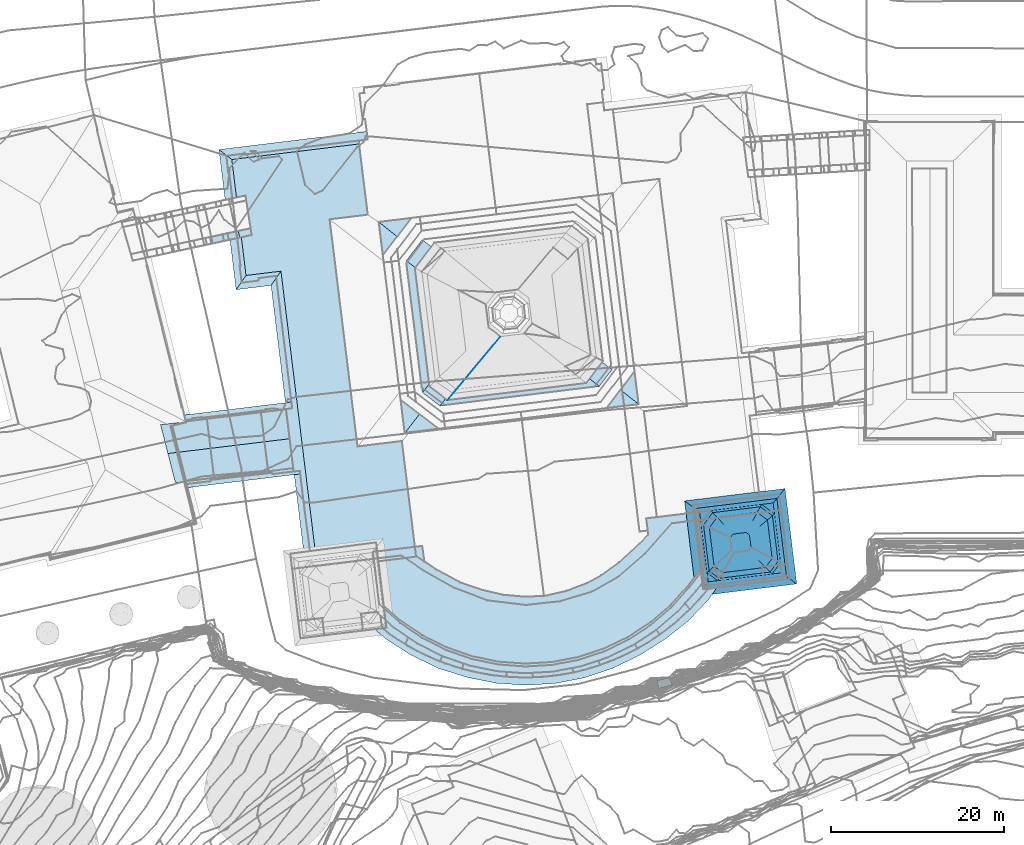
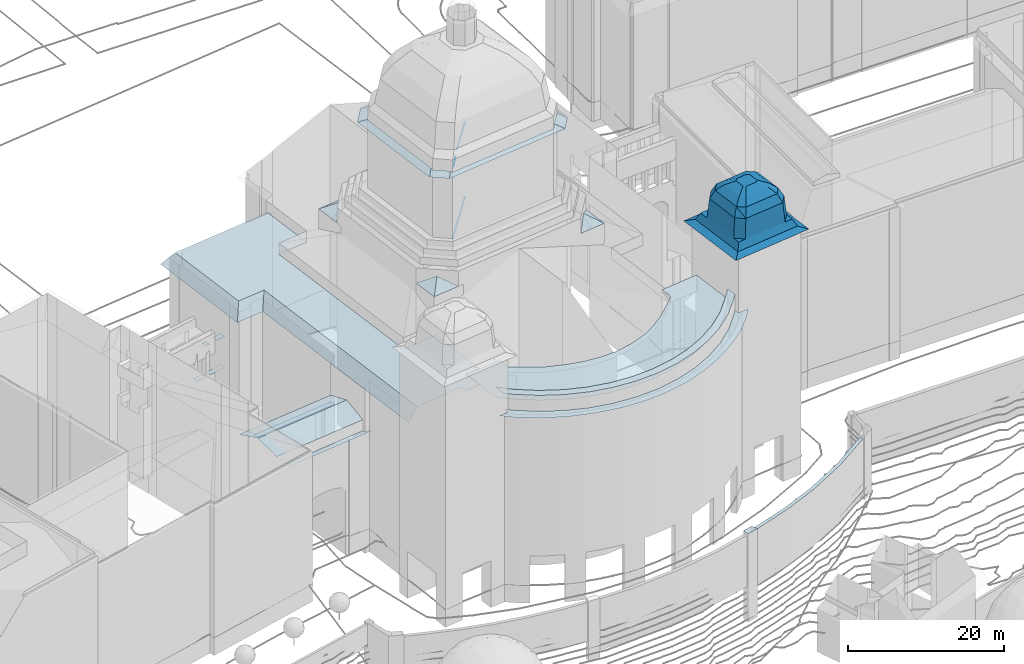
# Not in any storey, part 84 of 477: 26 roofs.
"""IFC4 building model written with IfcOpenShell, lengths in metres."""

from ifc_helpers import new_model, si_unit, frame, origin_with_axes, place, context, subcontext, project, spatial, polygons, element, save


model = new_model("IFC4")

# Units and contexts
model_context = context("Model", 3, precision=1e-05, world=origin_with_axes())
body_context = subcontext(model_context, "Body", "Model", "MODEL_VIEW")
ifc_project = project(units=[si_unit("AREAUNIT", "SQUARE_METRE"), si_unit("LENGTHUNIT", "METRE")], contexts=[model_context])

# Sites, building
site_1_placement = place(None, origin_with_axes())
site_1 = spatial("IfcSite", under=ifc_project, at=site_1_placement, Name="Topoexport Site")
site_2_placement = place(site_1_placement, origin_with_axes())
site_2 = spatial("IfcSite", under=site_1, at=site_2_placement, Name="TPX_BUILDINGS")
building_1_placement = place(site_2_placement, frame((211.8297320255, 101.9383160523, 526.7541), z_axis=(0.0, 0.0, 1.0), x_axis=(1.0, 0.0, 0.0)))
building_1 = spatial("IfcBuilding", under=site_2, at=building_1_placement, Name="Building 18", CompositionType="ELEMENT")

# Roofs
roof_1_placement = place(None, frame((211.8297320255, 101.9383160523, 526.7541), z_axis=(0.0, 0.0, 1.0), x_axis=(1.0, 0.0, 0.0)))
element("IfcRoof", 1, at=roof_1_placement, inside=building_1, Name="Roof 0", context=body_context, shape_type="Tessellation", body=[
    polygons([(355.9690000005, 249.8583999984, 13.1967), (355.7120000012, 250.2899999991, 13.1967), (361.4830000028, 253.5117000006, 13.1967), (361.2360000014, 253.9481999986, 13.1967), (350.2200000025, 246.7958999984, 13.1967), (350.0040000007, 247.2490000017, 13.1967), (345.0600000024, 245.1601000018, 13.1967), (339.2430000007, 242.6669999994, 13.1968), (339.068, 243.1387000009, 13.1968), (345.2380000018, 244.6904000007, 13.1967)], [[[3, 2, 1]], [[2, 3, 4]], [[5, 1, 2]], [[2, 6, 5]], [[9, 8, 7]], [[6, 10, 5]], [[10, 6, 7]], [[10, 7, 8]]]),
])
roof_2_placement = place(None, frame((211.8297320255, 101.9383160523, 526.7541), z_axis=(0.0, 0.0, 1.0), x_axis=(1.0, 0.0, 0.0)))
element("IfcRoof", 2, at=roof_2_placement, inside=building_1, Name="Roof 4", context=body_context, shape_type="Tessellation", body=[
    polygons([(287.8580000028, 294.6854999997, 24.302), (290.5280000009, 295.2606999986, 24.302), (290.6510000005, 294.4814000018, 24.302), (288.0230000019, 293.9149999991, 24.302)], [[[3, 2, 1]], [[1, 4, 3]]]),
])
roof_3_placement = place(None, frame((211.8297320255, 101.9383160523, 526.7541), z_axis=(0.0, 0.0, 1.0), x_axis=(1.0, 0.0, 0.0)))
element("IfcRoof", 3, at=roof_3_placement, inside=building_1, Name="Roof 8", context=body_context, shape_type="Tessellation", body=[
    polygons([(285.8230000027, 294.246100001, 24.302), (287.2910000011, 294.5634999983, 24.302), (287.4560000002, 293.7930000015, 24.302), (285.9890000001, 293.4765000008, 24.302)], [[[3, 2, 1]], [[1, 4, 3]]]),
])
roof_4_placement = place(None, frame((211.8297320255, 101.9383160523, 526.7541), z_axis=(0.0, 0.0, 1.0), x_axis=(1.0, 0.0, 0.0)))
element("IfcRoof", 4, at=roof_4_placement, inside=building_1, Name="Roof 21", context=body_context, shape_type="Tessellation", body=[
    polygons([(287.2910000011, 294.5625, 29.1525), (288.0230000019, 293.9149999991, 29.1525), (287.4560000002, 293.7930000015, 29.1525), (287.8580000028, 294.6845999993, 29.1525)], [[[3, 2, 1]], [[2, 4, 1]]]),
])
roof_5_placement = place(None, frame((211.8297320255, 101.9383160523, 526.7541), z_axis=(0.0, 0.0, 1.0), x_axis=(1.0, 0.0, 0.0)))
element("IfcRoof", 5, at=roof_5_placement, inside=building_1, Name="Roof 48", context=body_context, shape_type="Tessellation", body=[
    polygons([(339.0240000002, 243.2588, 13.5627), (337.745000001, 241.9609000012, 13.5627), (337.569000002, 242.8828000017, 13.5627), (339.3520000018, 242.3768999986, 13.5627)], [[[3, 2, 1]], [[4, 1, 2]]]),
])

# Building
building_2_placement = place(site_2_placement, frame((516.5377320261, 359.7107160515, 536.6602), z_axis=(0.0, 0.0, 1.0), x_axis=(1.0, 0.0, 0.0)))
building_2 = spatial("IfcBuilding", under=site_2, at=building_2_placement, Name="Building 193", CompositionType="ELEMENT")

# Roofs
roof_6_placement = place(None, frame((516.5377320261, 359.7107160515, 536.6602), z_axis=(0.0, 0.0, 1.0), x_axis=(1.0, 0.0, 0.0)))
element("IfcRoof", 6, at=roof_6_placement, inside=building_2, Name="Roof 0", context=body_context, shape_type="Tessellation", body=[
    polygons([(30.2879999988, 20.9327000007, 33.0869), (30.7569999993, 17.1143000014, 33.0868), (28.6510000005, 18.7881000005, 34.3877), (27.0240000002, 16.6563000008, 33.0868)], [[[3, 2, 1]], [[2, 3, 4]]]),
])
roof_7_placement = place(None, frame((516.5377320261, 359.7107160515, 536.6602), z_axis=(0.0, 0.0, 1.0), x_axis=(1.0, 0.0, 0.0)))
element("IfcRoof", 7, at=roof_7_placement, inside=building_2, Name="Roof 1", context=body_context, shape_type="Tessellation", body=[
    polygons([(3.1920000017, 17.6044999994, 33.0869), (5.3359999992, 15.9688000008, 34.4167), (3.6610000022, 13.7872000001, 33.0869), (7.5659999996, 14.2657000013, 33.0869)], [[[3, 2, 1]], [[2, 3, 4]]]),
])
roof_8_placement = place(None, frame((516.5377320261, 359.7107160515, 536.6602), z_axis=(0.0, 0.0, 1.0), x_axis=(1.0, 0.0, 0.0)))
element("IfcRoof", 8, at=roof_8_placement, inside=building_2, Name="Roof 2", context=body_context, shape_type="Tessellation", body=[
    polygons([(5.6970000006, 18.4893000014, 48.2674), (6.4930000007, 19.496100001, 48.8224), (6.5350000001, 19.1534000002, 48.7154), (7.7219999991, 16.9444000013, 48.2674), (8.3650000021, 17.7569000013, 48.7154)], [[[3, 2, 1]], [[5, 3, 4]], [[4, 3, 1]]]),
])
roof_9_placement = place(None, frame((516.5377320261, 359.7107160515, 536.6602), z_axis=(0.0, 0.0, 1.0), x_axis=(1.0, 0.0, 0.0)))
element("IfcRoof", 9, at=roof_9_placement, inside=building_2, Name="Roof 3", context=body_context, shape_type="Tessellation", body=[
    polygons([(26.5370000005, 21.9942000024, 48.8753), (26.1810000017, 19.2100000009, 48.2674), (25.068, 20.0694000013, 48.8753), (27.6500000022, 21.134800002, 48.2674)], [[[3, 2, 1]], [[1, 2, 4]]]),
])
roof_10_placement = place(None, frame((516.5377320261, 359.7107160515, 536.6602), z_axis=(0.0, 0.0, 1.0), x_axis=(1.0, 0.0, 0.0)))
element("IfcRoof", 10, at=roof_10_placement, inside=building_2, Name="Roof 5", context=body_context, shape_type="Tessellation", body=[
    polygons([(12.8370000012, 22.692400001, 38.1684), (8.5430000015, 17.5284000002, 38.1684), (10.6290000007, 20.0401000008, 38.1684), (12.9739999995, 22.8604000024, 38.1684), (14.7650000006, 25.009800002, 38.1684)], [[[3, 2, 1]], [[1, 5, 4]], [[1, 4, 3]]]),
])
roof_11_placement = place(None, frame((516.5377320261, 359.7107160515, 536.6602), z_axis=(0.0, 0.0, 1.0), x_axis=(1.0, 0.0, 0.0)))
element("IfcRoof", 11, at=roof_11_placement, inside=building_2, Name="Roof 6", context=body_context, shape_type="Tessellation", body=[
    polygons([(9.5700000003, 18.7657000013, 49.2293), (9.5710000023, 18.7646999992, 49.2283), (9.0810000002, 18.1748000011, 48.8994), (10.0610000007, 19.3564999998, 49.5583)], [[[3, 2, 1]], [[2, 4, 1]]]),
])
roof_12_placement = place(None, frame((516.5377320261, 359.7107160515, 536.6602), z_axis=(0.0, 0.0, 1.0), x_axis=(1.0, 0.0, 0.0)))
element("IfcRoof", 12, at=roof_12_placement, inside=building_2, Name="Roof 7", context=body_context, shape_type="Tessellation", body=[
    polygons([(3.824000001, 33.7540000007, 48.2376), (4.8839999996, 32.9356000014, 48.8275), (4.8489999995, 32.8896999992, 48.8025), (6.4930000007, 19.496100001, 48.8024), (5.6970000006, 18.4893000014, 48.2374)], [[[3, 2, 1]], [[1, 5, 4]], [[1, 4, 3]]]),
])
roof_13_placement = place(None, frame((516.5377320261, 359.7107160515, 536.6602), z_axis=(0.0, 0.0, 1.0), x_axis=(1.0, 0.0, 0.0)))
element("IfcRoof", 13, at=roof_13_placement, inside=building_2, Name="Roof 8", context=body_context, shape_type="Tessellation", body=[
    polygons([(14.7219999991, 24.9590000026, 49.8883), (10.5540000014, 19.9502000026, 49.8883), (12.1140000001, 21.8282000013, 49.8883), (13.6781000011, 23.7080000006, 49.8883)], [[[3, 2, 1]], [[1, 4, 3]]]),
])
roof_14_placement = place(None, frame((516.5377320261, 359.7107160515, 536.6602), z_axis=(0.0, 0.0, 1.0), x_axis=(1.0, 0.0, 0.0)))
element("IfcRoof", 14, at=roof_14_placement, inside=building_2, Name="Roof 9", context=body_context, shape_type="Tessellation", body=[
    polygons([(3.824000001, 33.7539000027, 48.2676), (6.7360000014, 35.3632999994, 48.8465), (4.8839999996, 32.9356000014, 48.8465), (5.675999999, 36.1807000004, 48.2676)], [[[3, 2, 1]], [[2, 4, 1]]]),
])
roof_15_placement = place(None, frame((516.5377320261, 359.7107160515, 536.6602), z_axis=(0.0, 0.0, 1.0), x_axis=(1.0, 0.0, 0.0)))
element("IfcRoof", 15, at=roof_15_placement, inside=building_2, Name="Roof 10", context=body_context, shape_type="Tessellation", body=[
    polygons([(8.5899999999, 17.5850000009, 48.5694), (24.6799999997, 19.5595999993, 48.5694), (7.7219999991, 16.9444000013, 48.2374), (8.3650000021, 17.7569000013, 48.6944), (26.1810000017, 19.2100000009, 48.2374), (25.068, 20.0694000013, 48.8563)], [[[3, 2, 1]], [[3, 1, 4]], [[2, 3, 5]], [[6, 2, 5]]]),
])
roof_16_placement = place(None, frame((516.5377320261, 359.7107160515, 536.6602), z_axis=(0.0, 0.0, 1.0), x_axis=(1.0, 0.0, 0.0)))
element("IfcRoof", 16, at=roof_16_placement, inside=building_2, Name="Roof 12", context=body_context, shape_type="Tessellation", body=[
    polygons([(45.432, -1.7705000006, 44.0418), (40.4589999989, -2.3797999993, 44.0418), (41.0329999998, -1.4228000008, 44.8107), (44.6460000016, -0.9793999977, 44.8107), (41.8630000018, -0.0361000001, 45.3876), (43.5080000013, 0.1660999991, 45.3876), (38.7950000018, -3.4452999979, 39.8132), (38.6660000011, -2.3924999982, 39.8132), (39.9030000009, -3.3084999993, 39.8132), (46.2019999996, -0.7265000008, 44.0418), (45.2060000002, -0.2206999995, 44.8107), (43.7630000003, 0.5108000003, 45.3876), (37.800999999, 4.6436000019, 39.8132), (39.0969999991, 4.8027999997, 39.8132), (37.9690000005, 3.2793000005, 39.8132), (47.3139999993, -2.3983999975, 39.8132), (46.193, -2.5361000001, 39.8132), (47.1689999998, -1.2177000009, 39.8132), (40.3220000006, -0.8973999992, 44.8107), (38.9299999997, 2.8282000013, 44.0418), (39.9220000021, 2.3614000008, 44.8107), (39.4809999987, -1.6571999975, 44.0418), (41.5390000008, 0.2032000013, 45.3876), (41.3579999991, 1.6865999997, 45.3876), (45.9670000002, -2.307599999, 42.7929), (40.068, -3.0321999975, 42.7929), (38.9090000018, -2.1728000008, 42.7929), (46.881000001, -1.0722000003, 42.7929), (38.3650000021, -3.9668000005, 38.7563), (47.8570000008, -2.8006999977, 38.7563), (37.2580000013, 5.0469000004, 38.7563), (38.254999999, 3.1436000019, 42.7929), (46.193, -2.5361000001, 39.6132), (40.068, -3.0321999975, 42.5929), (39.9030000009, -3.3084999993, 39.6132), (45.9670000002, -2.307599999, 42.5929), (43.0170000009, -2.6699000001, 42.7889), (38.6660000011, -2.3924999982, 39.6132), (38.9090000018, -2.1728000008, 42.5929), (38.254999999, 3.1436000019, 42.5929), (37.9690000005, 3.2793000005, 39.6132), (47.1689999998, -1.2177000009, 39.6132), (46.881000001, -1.0722000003, 42.5929)], [[[3, 2, 1]], [[1, 4, 3]], [[5, 3, 4]], [[4, 6, 5]], [[9, 8, 7]], [[1, 10, 4]], [[11, 4, 10]], [[4, 11, 6]], [[12, 6, 11]], [[15, 14, 13]], [[18, 17, 16]], [[21, 20, 19]], [[22, 19, 20]], [[24, 21, 23]], [[19, 23, 21]], [[2, 26, 25]], [[25, 1, 2]], [[26, 22, 27]], [[1, 25, 10]], [[28, 10, 25]], [[29, 9, 7]], [[9, 29, 17]], [[17, 30, 16]], [[30, 17, 29]], [[31, 15, 13]], [[15, 31, 29]], [[8, 29, 7]], [[29, 8, 15]], [[20, 32, 22]], [[27, 22, 32]], [[35, 34, 33]], [[36, 33, 34]], [[26, 9, 37]], [[37, 17, 25]], [[17, 37, 9]], [[26, 27, 8]], [[8, 9, 26]], [[39, 34, 38]], [[35, 38, 34]], [[32, 15, 27]], [[8, 27, 15]], [[41, 40, 39]], [[39, 38, 41]], [[28, 25, 18]], [[17, 18, 25]], [[36, 43, 42]], [[42, 33, 36]]]),
])
roof_17_placement = place(None, frame((516.5377320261, 359.7107160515, 536.6602), z_axis=(0.0, 0.0, 1.0), x_axis=(1.0, 0.0, 0.0)))
element("IfcRoof", 17, at=roof_17_placement, inside=building_2, Name="Roof 13", context=body_context, shape_type="Tessellation", body=[
    polygons([(39.9220000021, 2.3614000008, 44.8107), (39.8220000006, 4.0322999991, 44.0418), (40.5710000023, 3.2364000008, 44.8107), (38.9299999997, 2.8282000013, 44.0418), (41.6530000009, 2.0859999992, 45.3876), (41.3579999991, 1.6865999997, 45.3876), (44.4800000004, 4.6044999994, 44.0418), (43.9539999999, 3.6524000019, 44.8107), (43.193, 2.2745000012, 45.3876), (39.4809999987, -1.6571999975, 44.0418), (40.3220000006, -0.8973999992, 44.8107), (41.0329999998, -1.4228000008, 44.8107), (40.4589999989, -2.3797999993, 44.0418), (41.5390000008, 0.2032000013, 45.3876), (41.8630000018, -0.0361000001, 45.3876), (43.7630000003, 0.5108000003, 45.3876), (43.5820000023, 1.9864000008, 45.3876), (43.5080000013, 0.1660999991, 45.3876), (45.6550000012, 3.7354000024, 44.0418), (46.2019999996, -0.7265000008, 44.0418), (45.2060000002, -0.2206999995, 44.8107), (44.8080000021, 3.0196000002, 44.8107), (48.2199999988, -3.0692999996, 38.6463), (37.4200000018, -5.1141999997, 38.3933), (38.2129999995, -4.1523000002, 38.6973), (47.8570000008, -2.8006999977, 38.7563), (38.3650000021, -3.9668000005, 38.7563), (49.0520000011, -3.6844999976, 38.3933), (37.2580000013, 5.0469000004, 38.7563), (37.069000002, 5.1865999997, 38.6993), (36.063000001, 5.9307000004, 38.3933), (47.6950000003, 7.3604000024, 38.3933), (47.0450000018, 6.572300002, 38.6423), (46.75, 6.2129000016, 38.7563), (46.3200000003, 5.6905000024, 39.8132), (46.4750000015, 4.4257999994, 39.8132), (44.9890000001, 5.5274000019, 39.8132), (39.313000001, 4.5733000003, 42.7929), (38.254999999, 3.1436000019, 42.7929), (44.8370000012, 5.2520000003, 42.7929), (40.068, -3.0321999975, 42.7929), (46.2309999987, 4.2197999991, 42.7929), (46.881000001, -1.0722000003, 42.7929), (37.800999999, 4.6436000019, 39.8132), (39.0969999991, 4.8027999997, 39.8132), (47.3139999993, -2.3983999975, 39.8132), (47.1689999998, -1.2177000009, 39.8132), (37.9690000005, 3.2793000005, 39.8132), (38.254999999, 3.1436000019, 42.5929), (39.0969999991, 4.8027999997, 39.6132), (37.9690000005, 3.2793000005, 39.6132), (39.313000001, 4.5733000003, 42.5929), (44.8370000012, 5.2520000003, 42.5929), (44.9890000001, 5.5274000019, 39.6132), (46.4750000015, 4.4257999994, 39.6132), (46.881000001, -1.0722000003, 42.5929), (47.1689999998, -1.2177000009, 39.6132), (46.2309999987, 4.2197999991, 42.5929)], [[[3, 2, 1]], [[4, 1, 2]], [[3, 1, 5]], [[6, 5, 1]], [[8, 7, 3]], [[2, 3, 7]], [[9, 8, 5]], [[3, 5, 8]], [[12, 11, 10]], [[10, 13, 12]], [[15, 14, 11]], [[11, 12, 15]], [[6, 14, 16]], [[9, 5, 6]], [[16, 14, 15]], [[17, 6, 16]], [[9, 6, 17]], [[16, 15, 18]], [[21, 20, 19]], [[19, 22, 21]], [[16, 21, 22]], [[22, 17, 16]], [[25, 24, 23]], [[27, 25, 26]], [[25, 23, 26]], [[23, 24, 28]], [[30, 27, 29]], [[25, 30, 31]], [[30, 25, 27]], [[25, 31, 24]], [[33, 32, 31]], [[34, 33, 30]], [[30, 29, 34]], [[31, 30, 33]], [[23, 28, 33]], [[26, 23, 34]], [[23, 33, 34]], [[33, 28, 32]], [[37, 36, 35]], [[22, 19, 7]], [[7, 8, 22]], [[9, 17, 22]], [[22, 8, 9]], [[2, 38, 4]], [[39, 4, 38]], [[7, 40, 2]], [[38, 2, 40]], [[10, 41, 13]], [[20, 43, 42]], [[42, 19, 20]], [[34, 37, 35]], [[37, 34, 29]], [[45, 29, 44]], [[29, 45, 37]], [[26, 47, 46]], [[47, 26, 36]], [[36, 34, 35]], [[34, 36, 26]], [[19, 42, 40]], [[40, 7, 19]], [[45, 48, 39]], [[39, 38, 45]], [[51, 50, 49]], [[52, 49, 50]], [[40, 37, 38]], [[45, 38, 37]], [[54, 53, 52]], [[52, 50, 54]], [[43, 47, 36]], [[36, 42, 43]], [[57, 56, 55]], [[58, 55, 56]], [[40, 42, 36]], [[36, 37, 40]], [[58, 53, 55]], [[54, 55, 53]]]),
])
roof_18_placement = place(None, frame((516.5377320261, 359.7107160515, 536.6602), z_axis=(0.0, 0.0, 1.0), x_axis=(1.0, 0.0, 0.0)))
element("IfcRoof", 18, at=roof_18_placement, inside=building_2, Name="Roof 20", context=body_context, shape_type="Tessellation", body=[
    polygons([(1.5800000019, -10.1405999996, 29.4762), (1.5490000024, -8.7743999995, 29.4762), (2.3819999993, -8.7597000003, 29.4762), (0.1790000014, -8.9442999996, 29.4762), (1.0340000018, -8.8398000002, 29.4762), (5.0839999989, -10.5995999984, 29.4762), (4.3320000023, -11.9002999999, 29.4762), (8.0020000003, -12.0711999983, 29.4762), (10.8670000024, -14.5018999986, 29.4762), (7.568, -13.4725999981, 29.4762), (11.0879999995, -13.1483999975, 29.4762), (14.2459999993, -15.1844999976, 29.4762), (1.4809999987, -8.2557999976, 29.4762), (1.4479999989, -7.9266999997, 29.4762), (14.2879999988, -13.8143999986, 29.4762), (17.6850000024, -15.4208999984, 29.4762), (17.5480000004, -14.0555999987, 29.4762), (20.8110000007, -13.8710999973, 29.4762), (21.125, -15.2060000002, 29.4762), (24.5080000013, -14.5438999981, 29.4762), (27.7750000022, -13.4461999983, 29.4761), (24.0219999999, -13.2606999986, 29.4762), (30.8709999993, -11.9305999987, 29.4761), (27.126000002, -12.2381999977, 29.4762), (30.0700000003, -10.8182999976, 29.4762), (32.8029999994, -9.0262999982, 29.4762), (33.8949999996, -10.0214000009, 29.4761), (36.5210000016, -7.9452999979, 29.4761), (38.8399999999, -5.4959999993, 29.4761), (35.2800000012, -6.8915999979, 29.4762), (37.4310000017, -4.4824000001, 29.4762), (38.1429999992, -3.5742000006, 29.4762), (38.2340000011, -4.3270999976, 29.4762), (38.7580000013, -4.2987999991, 29.4762), (39.762000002, -4.1620999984, 29.4762)], [[[3, 2, 1]], [[5, 4, 1]], [[2, 5, 1]], [[1, 7, 6]], [[10, 9, 8]], [[6, 7, 8]], [[9, 11, 8]], [[1, 6, 3]], [[8, 7, 10]], [[12, 11, 9]], [[13, 2, 3]], [[14, 13, 3]], [[12, 15, 11]], [[15, 12, 16]], [[15, 16, 17]], [[17, 19, 18]], [[19, 17, 16]], [[18, 19, 20]], [[22, 20, 21]], [[20, 22, 18]], [[25, 24, 23]], [[21, 24, 22]], [[23, 24, 21]], [[27, 26, 25]], [[26, 27, 28]], [[27, 25, 23]], [[30, 28, 29]], [[28, 30, 26]], [[30, 29, 31]], [[31, 33, 32]], [[29, 33, 31]], [[33, 29, 34]], [[29, 35, 34]]]),
])
roof_19_placement = place(None, frame((516.5377320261, 359.7107160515, 536.6602), z_axis=(0.0, 0.0, 1.0), x_axis=(1.0, 0.0, 0.0)))
element("IfcRoof", 19, at=roof_19_placement, inside=building_2, Name="Roof 21", context=body_context, shape_type="Tessellation", body=[
    polygons([(26.7060000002, -11.1981999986, 30.3921), (19.8020000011, -5.1034999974, 30.3921), (29.5179999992, -9.8418000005, 30.3921), (23.7410000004, -12.1756999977, 30.3921), (22.443, -4.4969999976, 30.3921), (32.1290000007, -8.1297999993, 30.3921), (26.4290000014, -2.7040999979, 30.3921), (36.5720000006, -3.7626999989, 30.3921), (24.8040000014, -3.5995999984, 30.3921), (34.493999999, -6.0918000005, 30.3921), (28.4860000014, -1.2010999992, 30.3921), (37.9499999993, -2.0047999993, 30.3921), (17.557, -12.9344999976, 30.3921), (14.444000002, -12.7040999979, 30.3921), (11.3880000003, -12.0682999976, 30.3921), (17.4670000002, -5.182599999, 30.3921), (8.4400000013, -11.0390000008, 30.3921), (20.6740000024, -12.7577999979, 30.3921), (15.1059999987, -4.9715999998, 30.3921), (12.6689999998, -4.4178999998, 30.3921), (5.6530000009, -9.6327999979, 30.3921), (3.0720000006, -7.8768999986, 30.3921), (30.8469999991, 0.9882999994, 30.3921), (37.1460000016, 4.5595999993, 30.3921), (31.8709999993, 2.0069000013, 30.3921), (31.6409999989, 3.8838, 30.3921), (1.243999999, -6.2381999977, 30.3921), (10.0540000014, -3.5214000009, 30.3921), (7.313000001, -2.0174999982, 30.3921), (0.8310000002, -2.8299999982, 30.3921), (0.4849999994, 0.058600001, 30.3921), (5.9479999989, -1.123999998, 30.3921), (5.7030000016, 0.7002000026, 30.3921)], [[[3, 2, 1]], [[1, 2, 4]], [[3, 6, 5]], [[9, 8, 7]], [[10, 9, 5]], [[9, 10, 8]], [[10, 5, 6]], [[8, 12, 11]], [[5, 2, 3]], [[14, 13, 2]], [[14, 2, 15]], [[17, 15, 16]], [[18, 2, 13]], [[19, 17, 16]], [[22, 21, 20]], [[21, 17, 19]], [[20, 21, 19]], [[16, 15, 2]], [[18, 4, 2]], [[11, 12, 23]], [[7, 8, 11]], [[12, 24, 23]], [[23, 24, 25]], [[26, 25, 24]], [[28, 27, 22]], [[30, 27, 29]], [[27, 28, 29]], [[22, 20, 28]], [[32, 31, 30]], [[33, 31, 32]], [[32, 30, 29]]]),
])
roof_20_placement = place(None, frame((516.5377320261, 359.7107160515, 536.6602), z_axis=(0.0, 0.0, 1.0), x_axis=(1.0, 0.0, 0.0)))
element("IfcRoof", 20, at=roof_20_placement, inside=building_2, Name="Roof 22", context=body_context, shape_type="Tessellation", body=[
    polygons([(8.0020000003, -12.0711999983, 31.9489), (11.3880000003, -12.0682999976, 31.9489), (11.0879999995, -13.1483999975, 31.9489), (14.444000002, -12.7040999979, 31.9489), (5.0839999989, -10.5995999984, 31.9489), (8.4400000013, -11.0390000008, 31.9489), (20.6740000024, -12.7577999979, 31.9489), (17.5480000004, -14.0555999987, 31.9489), (17.557, -12.9344999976, 31.9489), (14.2879999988, -13.8143999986, 31.9489), (2.3819999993, -8.7597000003, 31.9489), (1.4389999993, -7.9188999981, 31.9489), (3.0720000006, -7.8768999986, 31.9489), (5.6530000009, -9.6327999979, 31.9489), (1.2380000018, -6.2324000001, 31.9489), (20.8110000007, -13.8710999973, 31.9489), (32.1290000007, -8.1297999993, 31.9489), (32.8029999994, -9.0262999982, 31.9489), (30.0700000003, -10.8182999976, 31.9489), (29.5179999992, -9.8418000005, 31.9489), (27.126000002, -12.2381999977, 31.9489), (35.2800000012, -6.8915999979, 31.9489), (34.493999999, -6.0918000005, 31.9489), (37.4310000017, -4.4824000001, 31.9489), (36.5720000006, -3.7626999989, 31.9489), (38.1429999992, -3.5751999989, 31.9489), (23.7410000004, -12.1756999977, 31.9489), (26.7060000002, -11.1981999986, 31.9489), (24.0219999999, -13.2606999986, 31.9489), (37.9499999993, -2.0047999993, 31.9489)], [[[3, 2, 1]], [[2, 3, 4]], [[1, 6, 5]], [[6, 1, 2]], [[9, 8, 7]], [[10, 9, 4]], [[9, 10, 8]], [[10, 4, 3]], [[13, 12, 11]], [[14, 13, 11]], [[14, 5, 6]], [[15, 12, 13]], [[11, 5, 14]], [[7, 8, 16]], [[19, 18, 17]], [[17, 20, 19]], [[19, 20, 21]], [[18, 22, 17]], [[22, 24, 23]], [[23, 24, 25]], [[26, 25, 24]], [[22, 23, 17]], [[29, 28, 27]], [[29, 21, 28]], [[7, 16, 27]], [[27, 16, 29]], [[25, 26, 30]], [[21, 20, 28]]]),
])
roof_21_placement = place(None, frame((516.5377320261, 359.7107160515, 536.6602), z_axis=(0.0, 0.0, 1.0), x_axis=(1.0, 0.0, 0.0)))
element("IfcRoof", 21, at=roof_21_placement, inside=building_2, Name="Roof 25", context=body_context, shape_type="Tessellation", body=[
    polygons([(3.3420000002, 12.8496000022, 27.8074), (4.8449999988, 0.5947999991, 27.8074), (0.3599999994, 1.1026000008, 27.8074), (0.4849999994, 0.0595999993, 27.8074), (-6.7269999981, 0.1700000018, 27.8074), (-1.7960000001, 12.2188000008, 27.8074), (-1.618999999, 47.2813000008, 27.8076), (-0.6109999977, 39.0655000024, 27.8076), (-5.0249999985, 38.5234999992, 27.8076), (-16.381000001, 45.4737000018, 27.8076), (-10.6899999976, 32.5410999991, 27.8076), (-14.737999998, 32.0459000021, 27.8076), (-11.8379999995, 30.8877000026, 25.8256), (-15.8859999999, 30.3916000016, 25.8256), (-15.2280000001, 31.3399000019, 26.9617), (-11.2109999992, 31.7910999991, 26.9077), (-16.9109999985, 45.8838, 27.1047), (-17.8729999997, 46.6280000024, 25.8258), (-0.7369999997, 48.7266000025, 25.8258), (-0.675999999, 48.2422000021, 26.5557), (-1.6640000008, 47.6436000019, 27.2626), (-0.6160000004, 47.7706000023, 27.2636), (-8.0549999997, -0.0047999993, 25.8256), (-10.0819999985, 16.5507999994, 25.8256), (-9.1959999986, 9.3115999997, 25.8256)], [[[3, 2, 1]], [[4, 2, 3]], [[3, 6, 5]], [[1, 6, 3]], [[9, 8, 7]], [[12, 11, 10]], [[9, 10, 11]], [[10, 9, 7]], [[11, 6, 9]], [[11, 5, 6]], [[15, 14, 13]], [[12, 15, 13]], [[16, 11, 12]], [[16, 12, 13]], [[17, 12, 10]], [[15, 17, 18]], [[17, 15, 12]], [[15, 18, 14]], [[20, 19, 18]], [[20, 17, 21]], [[21, 22, 20]], [[21, 17, 10]], [[21, 10, 7]], [[20, 18, 17]], [[23, 5, 11]], [[25, 11, 24]], [[11, 25, 23]], [[24, 16, 13]], [[16, 24, 11]]]),
])
roof_22_placement = place(None, frame((516.5377320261, 359.7107160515, 536.6602), z_axis=(0.0, 0.0, 1.0), x_axis=(1.0, 0.0, 0.0)))
element("IfcRoof", 22, at=roof_22_placement, inside=building_2, Name="Roof 26", context=body_context, shape_type="Tessellation", body=[
    polygons([(-10.0819999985, 16.5507999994, 19.1572), (-10.0789999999, 16.5254000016, 19.1572), (-21.6889999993, 15.1143000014, 19.1572), (-21.8779999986, 15.8858000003, 19.1572), (-9.3999999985, 16.947300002, 19.1572), (-9.432, 17.2071000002, 19.1572), (-9.4560000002, 17.3936000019, 19.1572), (-9.3649999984, 16.6425999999, 19.1572)], [[[3, 2, 1]], [[3, 1, 4]], [[1, 5, 4]], [[5, 6, 4]], [[7, 4, 6]], [[8, 5, 1]]]),
])
roof_23_placement = place(None, frame((516.5377320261, 359.7107160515, 536.6602), z_axis=(0.0, 0.0, 1.0), x_axis=(1.0, 0.0, 0.0)))
element("IfcRoof", 23, at=roof_23_placement, inside=building_2, Name="Roof 27", context=body_context, shape_type="Tessellation", body=[
    polygons([(-8.4820000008, 9.3956000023, 19.1572), (-8.4399999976, 9.0538000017, 19.1572), (-9.1959999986, 9.3115999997, 19.1572), (-21.6609999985, 8.192400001, 19.1572), (-21.4829999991, 7.4706999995, 19.1572), (-9.2430000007, 9.6993000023, 19.1572)], [[[3, 2, 1]], [[5, 2, 4]], [[4, 2, 3]], [[6, 4, 3]]]),
])
roof_24_placement = place(None, frame((516.5377320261, 359.7107160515, 536.6602), z_axis=(0.0, 0.0, 1.0), x_axis=(1.0, 0.0, 0.0)))
element("IfcRoof", 24, at=roof_24_placement, inside=building_2, Name="Roof 28", context=body_context, shape_type="Tessellation", body=[
    polygons([(-21.6609999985, 8.192400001, 20.8671), (-9.6640000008, 13.134800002, 22.0059), (-9.2430000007, 9.6993000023, 20.867), (-23.7829999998, 11.4209000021, 22.006), (-22.9179999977, 8.0391000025, 20.8671), (-21.6889999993, 15.1143000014, 20.8671), (-24.6349999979, 14.7569000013, 20.8671), (-10.9859999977, 16.4151000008, 20.8671), (-10.0789999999, 16.5245000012, 20.8671)], [[[3, 2, 1]], [[1, 2, 4]], [[4, 5, 1]], [[7, 4, 6]], [[6, 2, 8]], [[2, 6, 4]], [[9, 8, 2]]]),
])
roof_25_placement = place(None, frame((516.5377320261, 359.7107160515, 536.6602), z_axis=(0.0, 0.0, 1.0), x_axis=(1.0, 0.0, 0.0)))
element("IfcRoof", 25, at=roof_25_placement, inside=building_2, Name="Roof 29", context=body_context, shape_type="Tessellation", body=[
    polygons([(-15.6259999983, 37.1757999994, 19.2464), (-14.1799999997, 37.4882999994, 19.2464), (-14.057, 36.7090000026, 19.2464), (-15.4589999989, 36.4072999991, 19.2464)], [[[3, 2, 1]], [[1, 4, 3]]]),
])
roof_26_placement = place(None, frame((516.5377320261, 359.7107160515, 536.6602), z_axis=(0.0, 0.0, 1.0), x_axis=(1.0, 0.0, 0.0)))
element("IfcRoof", 26, at=roof_26_placement, inside=building_2, Name="Roof 31", context=body_context, shape_type="Tessellation", body=[
    polygons([(1.1339999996, 34.3720999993, 33.0871), (0.6610000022, 38.2217000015, 33.0871), (2.7840000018, 36.5342000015, 34.3989), (4.425999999, 38.6845999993, 33.0871)], [[[3, 2, 1]], [[2, 3, 4]]]),
])

save(model, "model.ifc")
